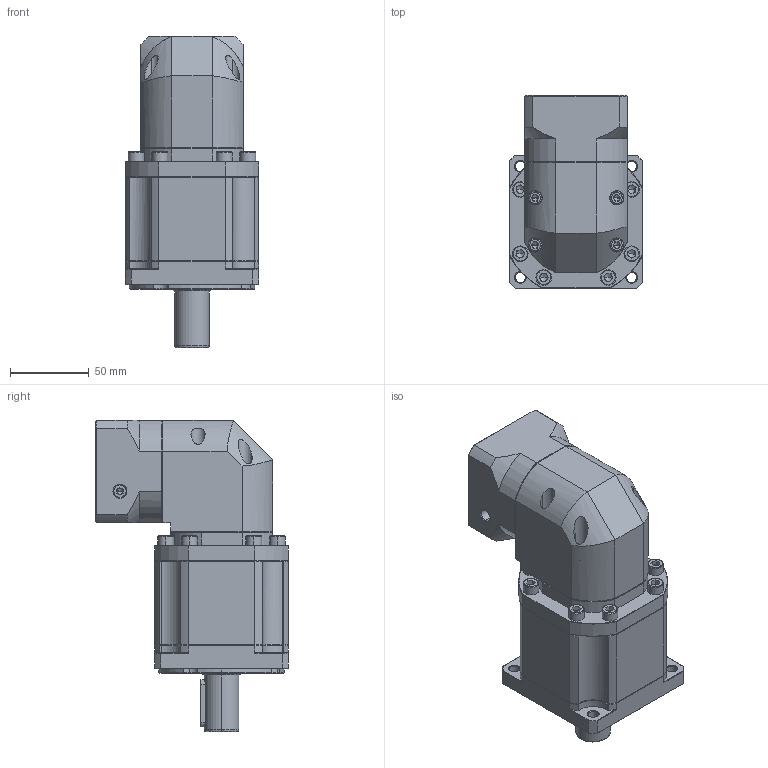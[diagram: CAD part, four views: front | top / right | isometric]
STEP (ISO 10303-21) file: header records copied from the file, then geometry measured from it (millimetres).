
FILE_DESCRIPTION (( 'STEP AP214' ), '1' );
FILE_NAME ('ZBR090-D22-L3-P2-14-60-75-M6.step', '2023-08-19T04:00:08', ( '' ), ( '' ), 'SwSTEP 2.0', 'SolidWorks 2016', '' );
FILE_SCHEMA (( 'AUTOMOTIVE_DESIGN' ));
Length unit declared in the file: millimetre
Products named in the file (1): ZBR090-D22-L3-P2-14-60-75-M6
Bounding box: 85 x 122.7 x 198 mm (x, y, z)
Volume: 937425 mm3; surface area: 107349.5 mm2
Topology: 5 solids, 5 shells, 2433 faces, 6470 edges, 4139 vertices
Faces by surface type: plane 1178, cylinder 441, bspline 426, cone 368, torus 20
Entity records: 129335 total; most frequent: CARTESIAN_POINT 45334, ORIENTED_EDGE 12848, DIRECTION 10371, EDGE_CURVE 6424, VERTEX_POINT 4139, VECTOR 4041, LINE 4041, AXIS2_PLACEMENT_3D 3165
